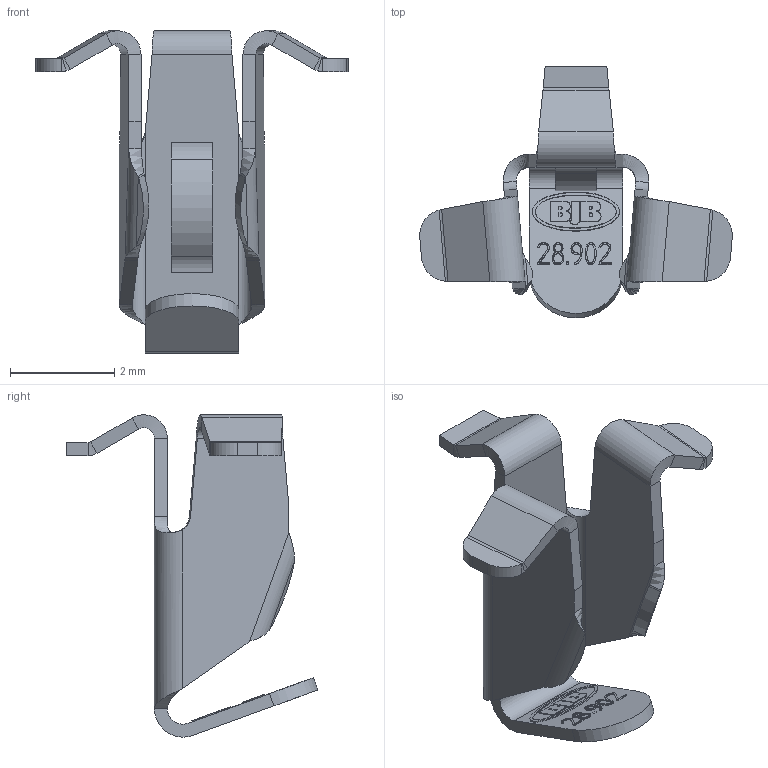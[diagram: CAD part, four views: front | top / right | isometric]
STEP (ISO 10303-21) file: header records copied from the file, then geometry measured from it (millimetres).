
FILE_DESCRIPTION(('CAx-IF Rec.Pracs.---Model Styling and Organization---1.2---2011-12-15','CAx-IF Rec.Pracs.---Geometric and Assembly Validation Properties---4.1---2014-06-16','CAx-IF Rec.Pracs.---PMI Polyline Presentation---2.0---2013-05-24'),'2;1');
FILE_NAME('01XY801Y06.stp','2016-04-06T07:07:39+02:00',(''),(''),'STEP Interface 4.0 Sp1 by CT CoreTechnologie','3D_Evolution4.0 Sp1 by CT CoreTechnologie','');
FILE_SCHEMA(('AP203_CONFIGURATION_CONTROLLED_3D_DESIGN_OF_MECHANICAL_PARTS_AND_ASSEMBLIES_MIM_LF'));
Length unit declared in the file: millimetre
Products named in the file (1): 01XY801Y06
Bounding box: 6.01 x 4.84 x 6.2 mm (x, y, z)
Volume: 11 mm3; surface area: 101.7 mm2
Topology: 1 solids, 1 shells, 209 faces, 482 edges, 292 vertices
Faces by surface type: plane 116, cylinder 55, bspline 38
Entity records: 16852 total; most frequent: CARTESIAN_POINT 2158, PROPERTY_DEFINITION 1684, ORIENTED_EDGE 964, DIRECTION 874, REPRESENTATION 843, GENERAL_PROPERTY 843, PROPERTY_DEFINITION_REPRESENTATION 843, GENERAL_PROPERTY_ASSOCIATION 843
